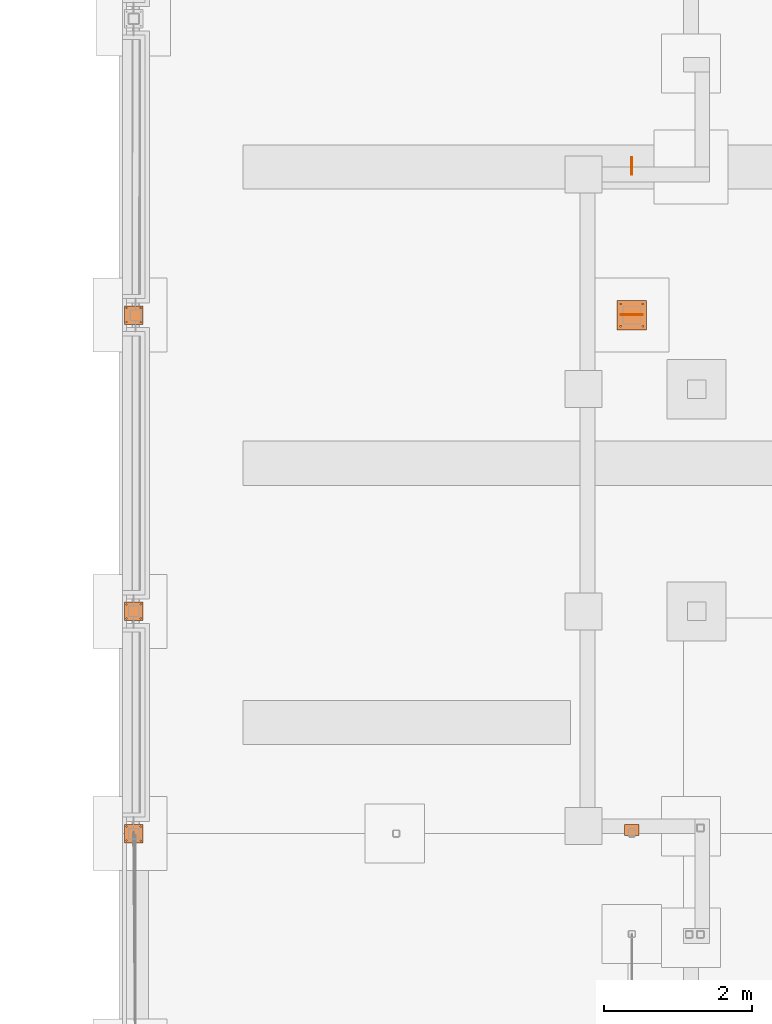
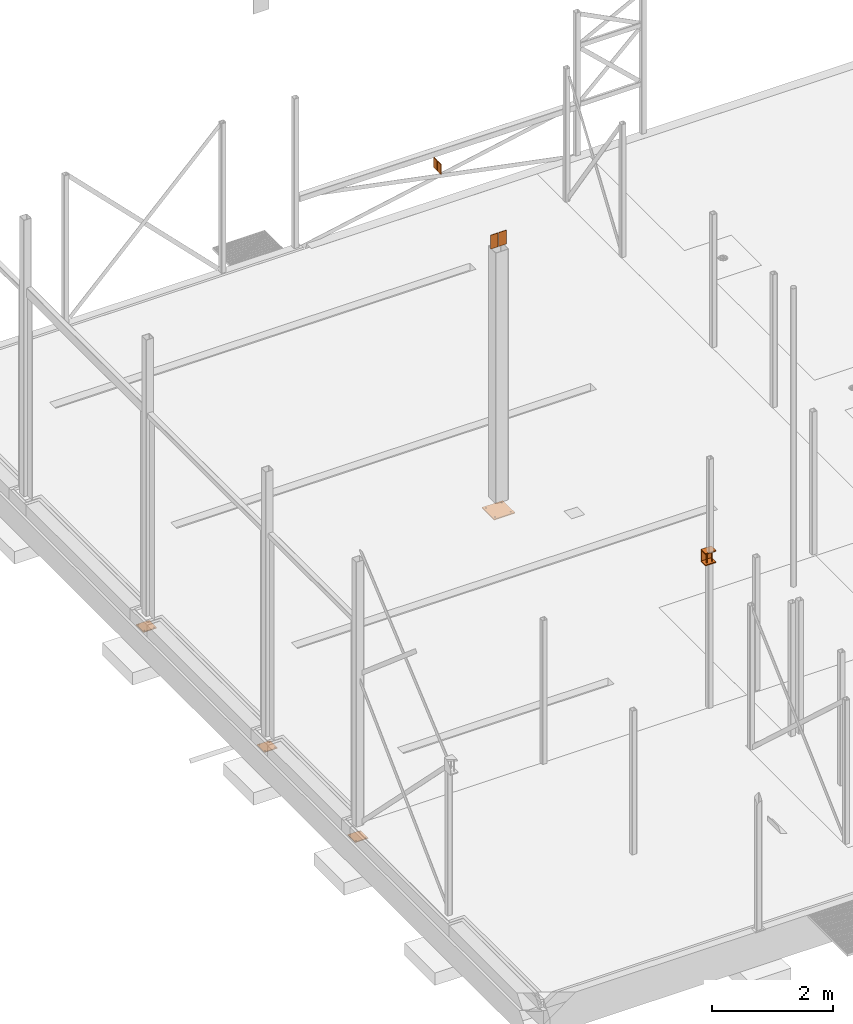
# One storey, part 16 of 18: 9 proxies.
"""IFC2X3 building model written with IfcOpenShell, lengths in millimetres."""

from ifc_helpers import new_model, entity, si_unit, converted_unit, derived_unit, direction, frame, frame_2d, origin, origin_2d_with_axis, place, context, subcontext, project, spatial, polyline, circle_curve, parameter, trimmed, segment, composite_curve, rectangle, circle, outline, extrude, source, transform, mapped, material, type_object, type_shapes, element, save


model = new_model("IFC2X3")

# Units and contexts
model_context = context("Model", 3, precision=0.01, world=origin(), true_north=direction((6.12303176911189e-17, 1.0)))
body_context = subcontext(model_context, "Body", "Model", "MODEL_VIEW")
ifc_project = project(units=[si_unit("LENGTHUNIT", "METRE", prefix="MILLI"), si_unit("AREAUNIT", "SQUARE_METRE"), si_unit("VOLUMEUNIT", "CUBIC_METRE"), converted_unit("PLANEANGLEUNIT", "DEGREE", entity("IfcRatioMeasure", 0.0174532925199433), si_unit("PLANEANGLEUNIT", "RADIAN"), dimensions=[0, 0, 0, 0, 0, 0, 0]), si_unit("MASSUNIT", "GRAM", prefix="KILO"), derived_unit("MASSDENSITYUNIT", [(si_unit("MASSUNIT", "GRAM", prefix="KILO"), 1), (si_unit("LENGTHUNIT", "METRE"), -3)]), si_unit("TIMEUNIT", "SECOND"), si_unit("FREQUENCYUNIT", "HERTZ"), si_unit("THERMODYNAMICTEMPERATUREUNIT", "DEGREE_CELSIUS"), derived_unit("THERMALTRANSMITTANCEUNIT", [(si_unit("MASSUNIT", "GRAM", prefix="KILO"), 1), (si_unit("THERMODYNAMICTEMPERATUREUNIT", "KELVIN"), -1), (si_unit("TIMEUNIT", "SECOND"), -3)]), derived_unit("VOLUMETRICFLOWRATEUNIT", [(si_unit("LENGTHUNIT", "METRE"), 3), (si_unit("TIMEUNIT", "SECOND"), -1)]), si_unit("ELECTRICCURRENTUNIT", "AMPERE"), si_unit("ELECTRICVOLTAGEUNIT", "VOLT"), si_unit("POWERUNIT", "WATT"), si_unit("FORCEUNIT", "NEWTON", prefix="KILO"), si_unit("ILLUMINANCEUNIT", "LUX"), si_unit("LUMINOUSFLUXUNIT", "LUMEN"), si_unit("LUMINOUSINTENSITYUNIT", "CANDELA"), derived_unit("USERDEFINED", [(si_unit("MASSUNIT", "GRAM", prefix="KILO"), -1), (si_unit("LENGTHUNIT", "METRE"), -2), (si_unit("TIMEUNIT", "SECOND"), 3), (si_unit("LUMINOUSFLUXUNIT", "LUMEN"), 1)]), derived_unit("LINEARVELOCITYUNIT", [(si_unit("LENGTHUNIT", "METRE"), 1), (si_unit("TIMEUNIT", "SECOND"), -1)]), si_unit("PRESSUREUNIT", "PASCAL"), derived_unit("USERDEFINED", [(si_unit("LENGTHUNIT", "METRE"), -2), (si_unit("MASSUNIT", "GRAM", prefix="KILO"), 1), (si_unit("TIMEUNIT", "SECOND"), -2)])], contexts=[model_context])

# Site, building, storey
site_placement = place(None, frame((0.0, 0.0, 101000.0)))
site = spatial("IfcSite", under=ifc_project, at=site_placement, Name="Default", CompositionType="ELEMENT")
building_placement = place(site_placement, origin())
building = spatial("IfcBuilding", under=site, at=building_placement, CompositionType="ELEMENT")
storey_placement = place(building_placement, origin())
storey = spatial("IfcBuildingStorey", under=building, at=storey_placement, Name="01", CompositionType="ELEMENT", Elevation=8.9295595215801e-10)

# Proxies
ifc_material_1 = material(Name="S355")
building_element_proxy_type_1 = type_object("IfcBuildingElementProxyType", Name="200x150", PredefinedType="NOTDEFINED", material=ifc_material_1)
shared_shape_1 = source(origin(), body_context, "Body", "SweptSolid", [
    extrude(rectangle(XDim=150.000000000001, YDim=200.0, at=frame_2d((21.6666666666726, 0.0), x_axis=(1.0, 0.0))), frame((10486.2644969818, 29486.9660892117, 3130.0), z_axis=(0.0, 0.0, 1.0), x_axis=(0.0, -1.0, 0.0)), (0.0, 0.0, 1.0), 19.9999999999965),
    extrude(circle(Radius=10.0000000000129, at=origin_2d_with_axis()), frame((10536.2644969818, 29440.299422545, 2900.0), z_axis=(0.0, 0.0, 1.0), x_axis=(0.0, 1.0, 0.0)), (0.0, 0.0, 1.0), 250.000000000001),
    extrude(circle(Radius=10.0000000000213, at=origin_2d_with_axis()), frame((10436.2644969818, 29440.299422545, 2900.0), z_axis=(0.0, 0.0, 1.0), x_axis=(0.0, 1.0, 0.0)), (0.0, 0.0, 1.0), 250.000000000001),
    extrude(rectangle(XDim=200.0, YDim=9.9999999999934, at=frame_2d((1.08713038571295e-12, 0.0), x_axis=(1.0, 0.0))), frame((10486.2644969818, 29535.2994225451, 2920.0), z_axis=(0.0, 0.0, 1.0), x_axis=(-1.0, 0.0, 0.0)), (0.0, 0.0, 1.0), 209.99999999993),
    extrude(rectangle(XDim=150.000000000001, YDim=200.0, at=frame_2d((-2.1600499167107e-12, 0.0), x_axis=(1.0, 0.0))), frame((10486.2644969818, 29465.299422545, 2900.0), z_axis=(0.0, 0.0, 1.0), x_axis=(0.0, -1.0, 0.0)), (0.0, 0.0, 1.0), 20.0000000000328),
])
type_shapes(building_element_proxy_type_1, [shared_shape_1])
proxy_1_placement = place(storey_placement, origin())
element("IfcBuildingElementProxy", 1, at=proxy_1_placement, inside=storey, type_object=building_element_proxy_type_1, material=ifc_material_1, Name="Innstøpningsplate mk.3:200x150", ObjectType="200x150", context=body_context, shape_type="MappedRepresentation", body=[
    mapped(shared_shape_1, transform((0.0, 0.0, 0.0), scale=1.0)),
])
building_element_proxy_type_2 = type_object("IfcBuildingElementProxyType", Name="250x250x15", PredefinedType="NOTDEFINED", material=ifc_material_1)
shared_shape_2 = source(origin(), body_context, "Body", "SweptSolid", [
    extrude(outline(polyline([(-125.0, -125.0), (125.0, -125.0), (125.0, 125.0), (-125.0, 125.0), (-125.0, -125.0)]), holes=[composite_curve([segment(trimmed(circle_curve(frame_2d((95.0, -95.0), x_axis=(-1.0, 0.0)), 8.0), [parameter(180.0)], [parameter(360.0)], True, "PARAMETER"), False, "CONTINUOUS"), segment(trimmed(circle_curve(frame_2d((95.0, -95.0), x_axis=(-1.0, 0.0)), 8.0), [parameter(3.56222124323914e-13)], [parameter(180.0)], True, "PARAMETER"), False, "CONTINUOUS")], self_intersect=False), composite_curve([segment(trimmed(circle_curve(frame_2d((-95.0, 95.0), x_axis=(-1.0, 0.0)), 8.0), [parameter(180.0)], [parameter(360.0)], True, "PARAMETER"), False, "CONTINUOUS"), segment(trimmed(circle_curve(frame_2d((-95.0, 95.0), x_axis=(-1.0, 0.0)), 8.0), [parameter(3.56222124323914e-13)], [parameter(180.0)], True, "PARAMETER"), False, "CONTINUOUS")], self_intersect=False), composite_curve([segment(trimmed(circle_curve(frame_2d((95.0, 95.0), x_axis=(-1.0, 0.0)), 8.0), [parameter(180.0)], [parameter(359.999999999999)], True, "PARAMETER"), False, "CONTINUOUS"), segment(trimmed(circle_curve(frame_2d((95.0, 95.0), x_axis=(-1.0, 0.0)), 8.0), [parameter(360.0)], [parameter(180.0)], True, "PARAMETER"), False, "CONTINUOUS")], self_intersect=False), composite_curve([segment(trimmed(circle_curve(frame_2d((-95.0, -95.0), x_axis=(-1.0, 0.0)), 8.0), [parameter(180.0)], [parameter(360.0)], True, "PARAMETER"), False, "CONTINUOUS"), segment(trimmed(circle_curve(frame_2d((-95.0, -95.0), x_axis=(-1.0, 0.0)), 8.0), [parameter(3.56222124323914e-13)], [parameter(180.0)], True, "PARAMETER"), False, "CONTINUOUS")], self_intersect=False)]), frame((0.0, 0.0, -15.0), z_axis=(0.0, 0.0, 1.0), x_axis=(-1.0, 0.0, 0.0)), (0.0, 0.0, 1.0), 15.000000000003),
])
type_shapes(building_element_proxy_type_2, [shared_shape_2])
for number, where, name in (
    (2, (3761.26449698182, 36417.9507529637, -250.0), "Innstøpningsplate_uten klør_4hull:250x250x15"),
    (3, (3761.26449698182, 32417.9507529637, -250.0), "Innstøpningsplate_uten klør_4hull:250x250x15"),
    (4, (3761.26449698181, 29417.9507529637, -250.0), "Innstøpningsplate_uten klør_4hull:250x250x15"),
):
    element("IfcBuildingElementProxy", number, at=place(storey_placement, frame(where)), inside=storey, type_object=building_element_proxy_type_2, material=ifc_material_1, Name=name, ObjectType="250x250x15", context=body_context, shape_type="MappedRepresentation", body=[
        mapped(shared_shape_2, transform((0.0, 0.0, 0.0), scale=1.0)),
    ])
ifc_material_2 = material(Name="Stål - S355")
building_element_proxy_type_3 = type_object("IfcBuildingElementProxyType", Name="400x400x15", PredefinedType="NOTDEFINED", material=ifc_material_2)
shared_shape_3 = source(origin(), body_context, "Body", "SweptSolid", [
    extrude(outline(polyline([(-200.0, -200.0), (200.0, -200.0), (200.0, 200.0), (-200.0, 200.0), (-200.0, -200.0)]), holes=[composite_curve([segment(trimmed(circle_curve(frame_2d((-150.0, 150.0), x_axis=(0.0, -1.0)), 10.0), [parameter(3.05333249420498e-13)], [parameter(180.0)], True, "PARAMETER"), False, "CONTINUOUS"), segment(trimmed(circle_curve(frame_2d((-150.0, 150.0), x_axis=(0.0, -1.0)), 10.0), [parameter(180.0)], [parameter(360.0)], True, "PARAMETER"), False, "CONTINUOUS")], self_intersect=False), composite_curve([segment(trimmed(circle_curve(frame_2d((150.0, -150.0), x_axis=(0.0, -1.0)), 10.0), [parameter(4.07110999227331e-13)], [parameter(180.0)], True, "PARAMETER"), False, "CONTINUOUS"), segment(trimmed(circle_curve(frame_2d((150.0, -150.0), x_axis=(0.0, -1.0)), 10.0), [parameter(180.0)], [parameter(360.0)], True, "PARAMETER"), False, "CONTINUOUS")], self_intersect=False), composite_curve([segment(trimmed(circle_curve(frame_2d((150.0, 150.0), x_axis=(0.0, -1.0)), 10.0), [parameter(9.6688862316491e-13)], [parameter(180.0)], True, "PARAMETER"), False, "CONTINUOUS"), segment(trimmed(circle_curve(frame_2d((150.0, 150.0), x_axis=(0.0, -1.0)), 10.0), [parameter(180.0)], [parameter(2.03555499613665e-13)], True, "PARAMETER"), False, "CONTINUOUS")], self_intersect=False), composite_curve([segment(trimmed(circle_curve(frame_2d((-150.0, -150.0), x_axis=(0.0, -1.0)), 10.0), [parameter(3.05333249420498e-13)], [parameter(180.0)], True, "PARAMETER"), False, "CONTINUOUS"), segment(trimmed(circle_curve(frame_2d((-150.0, -150.0), x_axis=(0.0, -1.0)), 10.0), [parameter(180.0)], [parameter(360.0)], True, "PARAMETER"), False, "CONTINUOUS")], self_intersect=False)]), frame((10486.2644969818, 36417.9507529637, -280.0), z_axis=(0.0, 0.0, 1.0), x_axis=(0.0, -1.0, 0.0)), (0.0, 0.0, 1.0), 20.000000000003),
])
type_shapes(building_element_proxy_type_3, [shared_shape_3])
proxy_2_placement = place(storey_placement, origin())
element("IfcBuildingElementProxy", 5, at=proxy_2_placement, inside=storey, type_object=building_element_proxy_type_3, material=ifc_material_2, Name="Innstøpningsplate_uten klør_4hull:400x400x15", ObjectType="400x400x15", context=body_context, shape_type="MappedRepresentation", body=[
    mapped(shared_shape_3, transform((0.0, 0.0, 0.0), scale=1.0)),
])
building_element_proxy_type_4 = type_object("IfcBuildingElementProxyType", Name="146x279", PredefinedType="NOTDEFINED", material=ifc_material_2)
shared_shape_4 = source(origin(), body_context, "Body", "SweptSolid", [
    extrude(rectangle(XDim=10.0000000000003, YDim=278.999999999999, at=origin_2d_with_axis()), frame((0.0, 0.0, -145.0), z_axis=(0.0, 0.0, 1.0), x_axis=(-1.0, 0.0, 0.0)), (0.0, 0.0, 1.0), 145.000000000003),
])
type_shapes(building_element_proxy_type_4, [shared_shape_4])
proxy_3_placement = place(storey_placement, frame((10481.7644969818, 36422.9507529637, 5195.0), z_axis=(1.0, 0.0, 0.0), x_axis=(0.0, -1.0, 0.0)))
element("IfcBuildingElementProxy", 6, at=proxy_3_placement, inside=storey, type_object=building_element_proxy_type_4, material=ifc_material_2, Name="stegforsterker:146x279", ObjectType="146x279", context=body_context, shape_type="MappedRepresentation", body=[
    mapped(shared_shape_4, transform((0.0, 0.0, 0.0), scale=1.0)),
])
building_element_proxy_type_5 = type_object("IfcBuildingElementProxyType", Name="146x279", PredefinedType="NOTDEFINED", material=ifc_material_2)
shared_shape_5 = source(origin(), body_context, "Body", "SweptSolid", [
    extrude(rectangle(XDim=278.999999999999, YDim=10.0000000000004, at=frame_2d((-1.4210854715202e-14, 0.0), x_axis=(1.0, 0.0))), frame((0.0, 0.0, -145.0), z_axis=(0.0, 0.0, 1.0), x_axis=(0.0, 1.0, 0.0)), (0.0, 0.0, 1.0), 145.000000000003),
])
type_shapes(building_element_proxy_type_5, [shared_shape_5])
proxy_4_placement = place(storey_placement, frame((10490.7644969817, 36422.9507529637, 5195.0), z_axis=(-1.0, 0.0, 0.0), x_axis=(0.0, -1.0, 0.0)))
element("IfcBuildingElementProxy", 7, at=proxy_4_placement, inside=storey, type_object=building_element_proxy_type_5, material=ifc_material_2, Name="stegforsterker:146x279", ObjectType="146x279", context=body_context, shape_type="MappedRepresentation", body=[
    mapped(shared_shape_5, transform((0.0, 0.0, 0.0), scale=1.0)),
])
building_element_proxy_type_6 = type_object("IfcBuildingElementProxyType", Name="110x110", PredefinedType="NOTDEFINED", material=ifc_material_2)
shared_shape_6 = source(origin(), body_context, "Body", "SweptSolid", [
    extrude(rectangle(XDim=10.0000000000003, YDim=205.999999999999, at=frame_2d((0.0, 7.105427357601e-15), x_axis=(1.0, 0.0))), frame((0.0, 0.0, -114.0), z_axis=(0.0, 0.0, 1.0), x_axis=(-1.0, 0.0, 0.0)), (0.0, 0.0, 1.0), 114.000000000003),
])
type_shapes(building_element_proxy_type_6, [shared_shape_6])
proxy_5_placement = place(storey_placement, frame((10486.2644969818, 38429.2007529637, 5465.0), z_axis=(0.0, 1.0, 0.0), x_axis=(-1.0, 0.0, 0.0)))
element("IfcBuildingElementProxy", 8, at=proxy_5_placement, inside=storey, type_object=building_element_proxy_type_6, material=ifc_material_2, Name="stegforsterker:110x110", ObjectType="110x110", context=body_context, shape_type="MappedRepresentation", body=[
    mapped(shared_shape_6, transform((0.0, 0.0, 0.0), scale=1.0)),
])
building_element_proxy_type_7 = type_object("IfcBuildingElementProxyType", Name="110x110", PredefinedType="NOTDEFINED", material=ifc_material_2)
shared_shape_7 = source(origin(), body_context, "Body", "SweptSolid", [
    extrude(rectangle(XDim=205.999999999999, YDim=10.0000000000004, at=frame_2d((-7.105427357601e-15, 0.0), x_axis=(1.0, 0.0))), frame((0.0, 0.0, -114.0), z_axis=(0.0, 0.0, 1.0), x_axis=(0.0, 1.0, 0.0)), (0.0, 0.0, 1.0), 114.000000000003),
])
type_shapes(building_element_proxy_type_7, [shared_shape_7])
proxy_6_placement = place(storey_placement, frame((10486.2644969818, 38436.7007529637, 5465.0), z_axis=(0.0, -1.0, 0.0), x_axis=(-1.0, 0.0, 0.0)))
element("IfcBuildingElementProxy", 9, at=proxy_6_placement, inside=storey, type_object=building_element_proxy_type_7, material=ifc_material_2, Name="stegforsterker:110x110", ObjectType="110x110", context=body_context, shape_type="MappedRepresentation", body=[
    mapped(shared_shape_7, transform((0.0, 0.0, 0.0), scale=1.0)),
])

save(model, "model.ifc")
